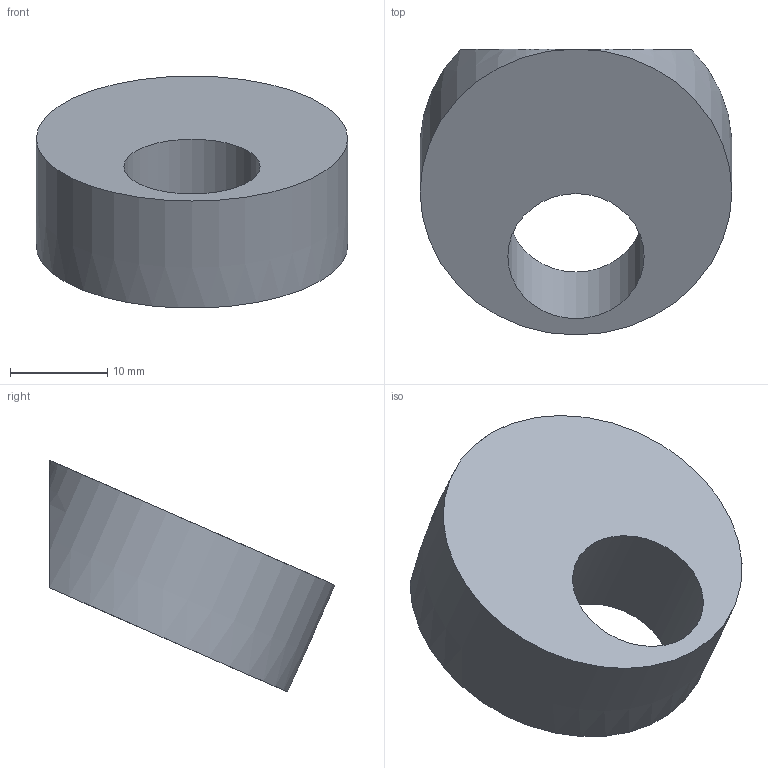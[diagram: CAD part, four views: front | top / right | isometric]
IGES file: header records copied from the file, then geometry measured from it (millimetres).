
Start section: Data from Parasolid IGES Translator 15.0.47, Copyright(c) 2006 Siemens P LM Software. All Rights Reserved.
Global section: file name: 9069886.igs; native system:  By UGS Corp.; preprocessor: XPlus GENERIC/IGES 3.0; author: Noname; organization: Noname; date: 20140122.174743; units: millimetre
Bounding box: 32 x 29.32 x 23.79 mm (x, y, z)
Surface area: 3053.1 mm2 (no closed solid volume)
Topology: 0 solids, 0 shells, 7 faces, 22 edges, 22 vertices
Faces by surface type: extrusion 4, revolution 3
